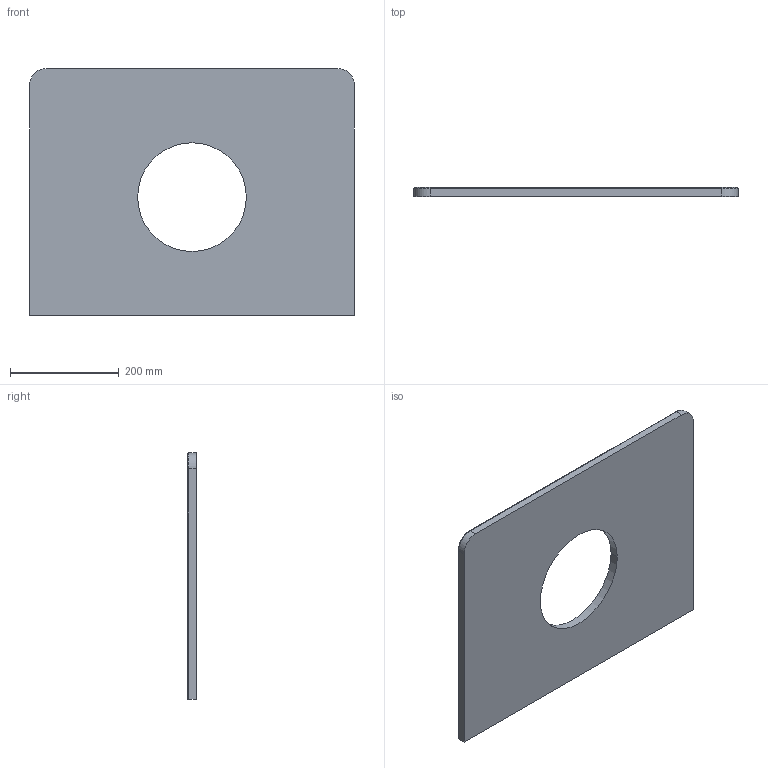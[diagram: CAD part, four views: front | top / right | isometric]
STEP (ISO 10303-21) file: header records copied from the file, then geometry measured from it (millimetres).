
FILE_DESCRIPTION(('FreeCAD Model'),'2;1');
FILE_NAME('Open CASCADE Shape Model','2025-05-30T21:15:37',(''),(''), 'Open CASCADE STEP processor 7.8','FreeCAD','Unknown');
FILE_SCHEMA(('AUTOMOTIVE_DESIGN { 1 0 10303 214 1 1 1 1 }'));
Length unit declared in the file: millimetre
Products named in the file (2): TopLevelAssembly; Po\X2\01420105\X0\czona geometria bry\X2\0142\X0\owa
Assembly tree (1 placements, depth 2):
  TopLevelAssembly
    Po\X2\01420105\X0\czona geometria bry\X2\0142\X0\owa
Bounding box: 597 x 16 x 454 mm (x, y, z)
Volume: 3823251.1 mm3; surface area: 520102.9 mm2
Topology: 1 solids, 1 shells, 15 faces, 35 edges, 22 vertices
Faces by surface type: plane 6, cylinder 5, bspline 4
Entity records: 487 total; most frequent: CARTESIAN_POINT 100, DIRECTION 77, ORIENTED_EDGE 70, EDGE_CURVE 35, AXIS2_PLACEMENT_3D 29, VERTEX_POINT 22, LINE 19, VECTOR 19
